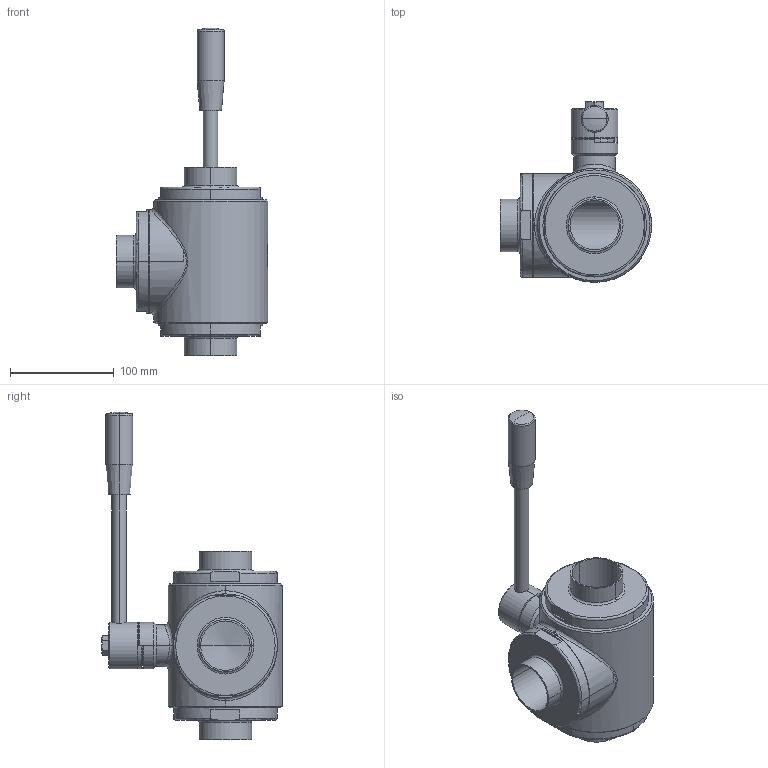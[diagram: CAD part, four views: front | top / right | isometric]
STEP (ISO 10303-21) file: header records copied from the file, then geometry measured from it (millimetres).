
FILE_DESCRIPTION((''),'2;1');
FILE_NAME('PARTE_VUOTA','2021-12-17T14:15:55',('alfio.taboni'),('CDM Tecnoconsulting'),'CREO PARAMETRIC BY PTC INC, 2020053','CREO PARAMETRIC BY PTC INC, 2020053','');
FILE_SCHEMA(('CONFIG_CONTROL_DESIGN','SHAPE_APPEARANCE_LAYERS_GROUPS'));
Products named in the file (1): PARTE_VUOTA
Bounding box: 146 x 174.5 x 316.5 mm (x, y, z)
Volume: 1175562.1 mm3; surface area: 253989.8 mm2
Topology: 2 solids, 17 shells, 942 faces, 2511 edges, 1593 vertices
Faces by surface type: plane 358, cylinder 271, cone 129, bspline 75, extrusion 56, torus 48, sphere 5
Entity records: 57036 total; most frequent: CARTESIAN_POINT 26780, ORIENTED_EDGE 4978, DIRECTION 4256, PRESENTATION_STYLE_ASSIGNMENT 2506, STYLED_ITEM 2494, CURVE_STYLE 2491, EDGE_CURVE 2491, VERTEX_POINT 1593
